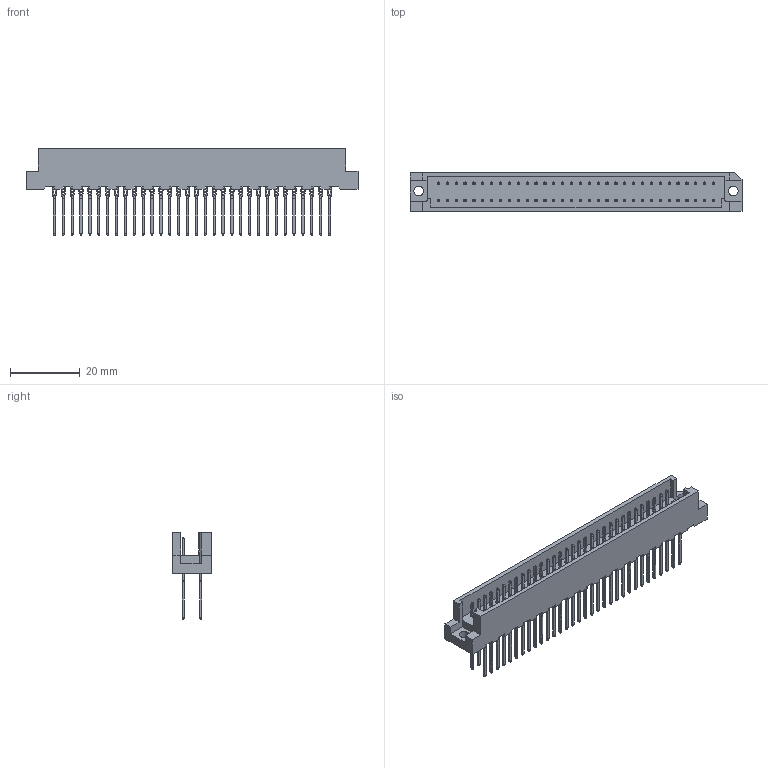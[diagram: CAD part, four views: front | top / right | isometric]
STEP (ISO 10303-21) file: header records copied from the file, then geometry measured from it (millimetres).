
FILE_DESCRIPTION(/* description */ (''),/* implementation_level */ '2;1');
FILE_NAME(/* name */ 'DIN-064RPB-DPW1_01_step.stp',/* time_stamp */ '2009-02-12T12:51:16-06:00',/* author */ (''),/* organization */ (''),/* preprocessor_version */ 'ST-DEVELOPER v11',/* originating_system */ 'UGS - NX 5.0',/* authorisation */ '');
FILE_SCHEMA (('AUTOMOTIVE_DESIGN { 1 0 10303 214 1 1 1 1 }'));
Products named in the file (1): DIN-064RPB-DPW1_01
Bounding box: 95 x 11.1 x 24.77 mm (x, y, z)
Volume: 6642.6 mm3; surface area: 8835.8 mm2
Topology: 1 solids, 1 shells, 3065 faces, 8611 edges, 5612 vertices
Faces by surface type: plane 1973, cylinder 836, torus 128, cone 128
Full cylindrical faces by diameter (mm): 2.794 x2
Entity records: 106289 total; most frequent: CARTESIAN_POINT 26499, ORIENTED_EDGE 17214, DIRECTION 16417, EDGE_CURVE 8607, AXIS2_PLACEMENT_3D 5768, VERTEX_POINT 5610, LINE 4881, VECTOR 4881
